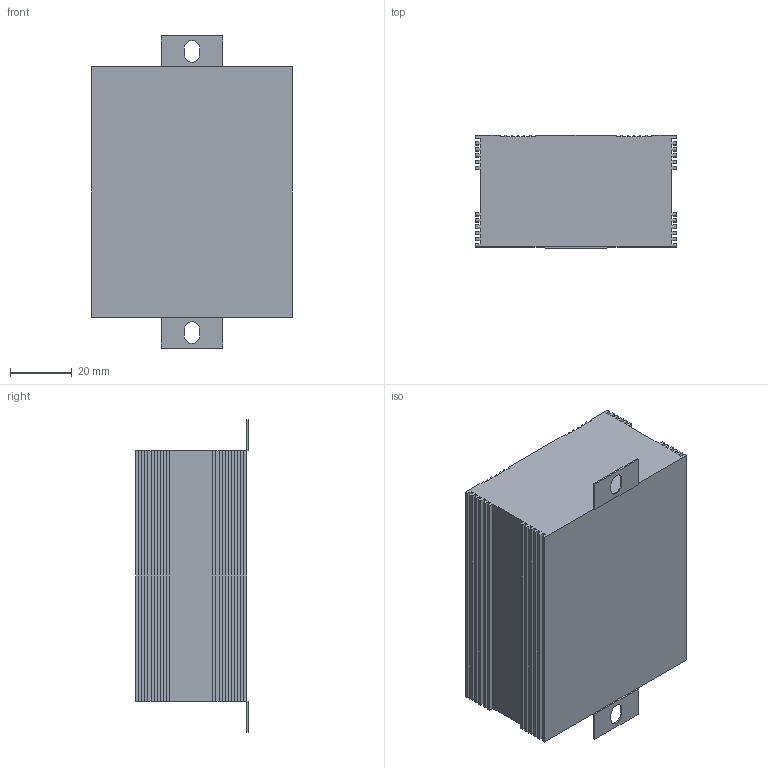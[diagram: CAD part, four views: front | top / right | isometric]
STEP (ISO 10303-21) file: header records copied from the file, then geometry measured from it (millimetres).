
FILE_DESCRIPTION(/* description */ (''),/* implementation_level */ '2;1');
FILE_NAME(/* name */ 'C:\vaultcache\Inventor Data\Designs\Projects B\Brendons\EVELOCITY\L-faster 24V 350W controller.stp',/* time_stamp */ '2025-06-11T17:10:27+12:00',/* author */ ('smithbc'),/* organization */ ('NIWA Instrument Systems'),/* preprocessor_version */ 'ST-DEVELOPER v18.1',/* originating_system */ 'Autodesk Inventor 2022',/* authorisation */ '');
FILE_SCHEMA (('AUTOMOTIVE_DESIGN { 1 0 10303 214 3 1 1 }'));
Length unit declared in the file: millimetre
Products named in the file (1): L-faster 24V 350W controller
Bounding box: 65 x 36.5 x 101 mm (x, y, z)
Volume: 183149.4 mm3; surface area: 27959.2 mm2
Topology: 3 solids, 3 shells, 162 faces, 472 edges, 316 vertices
Faces by surface type: plane 158, cylinder 4
Entity records: 5305 total; most frequent: CARTESIAN_POINT 951, ORIENTED_EDGE 944, DIRECTION 806, EDGE_CURVE 472, LINE 464, VECTOR 464, VERTEX_POINT 316, AXIS2_PLACEMENT_3D 171
